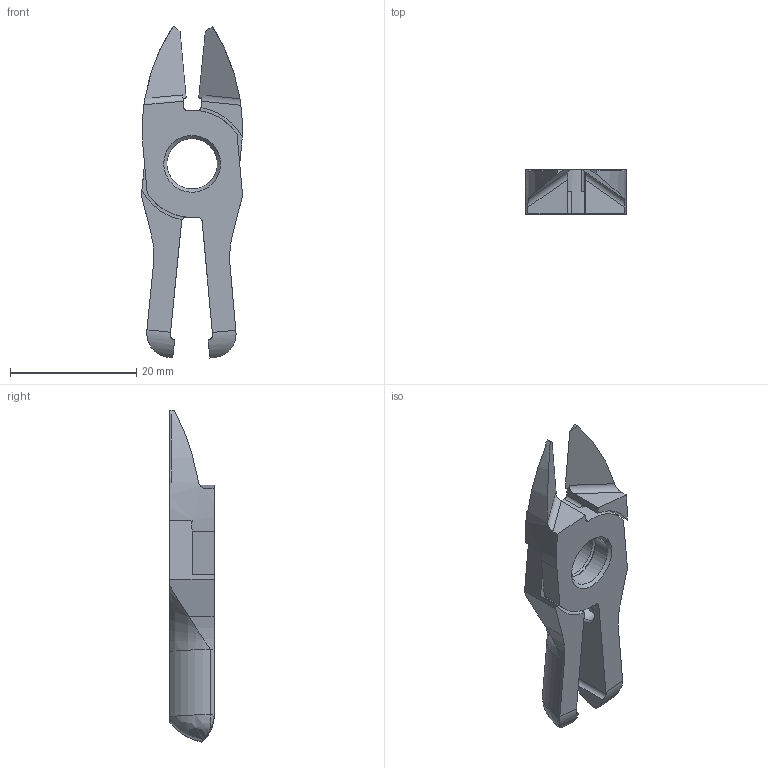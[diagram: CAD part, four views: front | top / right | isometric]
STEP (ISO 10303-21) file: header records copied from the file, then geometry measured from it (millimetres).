
FILE_DESCRIPTION(/* description */ (''),/* implementation_level */ '2;1');
FILE_NAME(/* name */ 'W:\Technik\Konstruktion\CAD-Daten\DJa\Vessel Schneidzangeneinsatz\NY05AJB\NY05AJB open.stp',/* time_stamp */ '2016-09-07T11:47:57+02:00',/* author */ ('DJansen'),/* organization */ (''),/* preprocessor_version */ 'ST-DEVELOPER v16.1',/* originating_system */ 'Autodesk Inventor 2016',/* authorisation */ '');
FILE_SCHEMA (('AUTOMOTIVE_DESIGN { 1 0 10303 214 3 1 1 }'));
Length unit declared in the file: centimetre
Products named in the file (1): NY05AJB Baugruppe
Bounding box: 16.03 x 7 x 52.56 mm (x, y, z)
Volume: 2562.3 mm3; surface area: 2435 mm2
Topology: 1 solids, 1 shells, 82 faces, 231 edges, 151 vertices
Faces by surface type: plane 36, cylinder 34, cone 8, bspline 2, torus 2
Full cylindrical faces by diameter (mm): 4 x2, 8 x2
Entity records: 2731 total; most frequent: CARTESIAN_POINT 547, DIRECTION 448, ORIENTED_EDGE 422, EDGE_CURVE 211, AXIS2_PLACEMENT_3D 170, VERTEX_POINT 143, LINE 108, VECTOR 108
